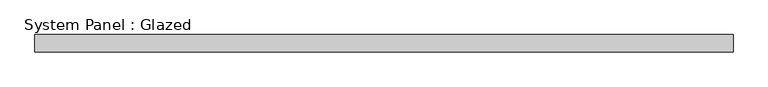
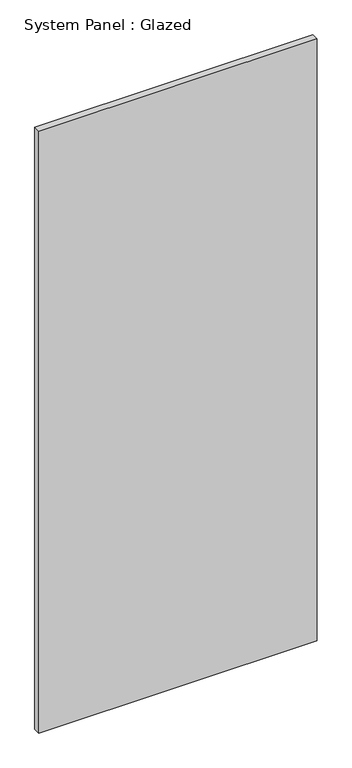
"""IFC4 building model written with IfcOpenShell, lengths in millimetres: plate geometry, System Panel : Glazed."""

from ifc_helpers import new_model, si_unit, origin, origin_with_axes, place, context, project, spatial, polyline, outline, extrude, source, transform, mapped, element, save


def system_panel_glazed_aafa14a7(model_context):
    return source(origin(), model_context, "Body", "SweptSolid", [
        extrude(outline(polyline([(508.3333332, -49.5), (-508.3333332, -49.5), (-508.3333332, -24.5), (508.3333332, -24.5), (508.3333332, -49.5)])), origin_with_axes(), (0.0, 0.0, 1.0), 2325.0),
    ])


if __name__ == "__main__":
    model = new_model("IFC4")
    model_context = context("Model", 3, world=origin())
    ifc_project = project(units=[si_unit("LENGTHUNIT", "METRE", prefix="MILLI")], contexts=[model_context])
    site = spatial("IfcSite", under=ifc_project)
    building = spatial("IfcBuilding", under=site)
    placement = place(None, origin())
    system_panel_glazed_shape = system_panel_glazed_aafa14a7(model_context)
    element("IfcPlate", 1, ObjectType="System Panel : Glazed", at=placement, inside=building, context=model_context, shape_type="MappedRepresentation", body=[
        mapped(system_panel_glazed_shape, transform((0.0, 0.0, 0.0), x_axis=(1.0, 0.0, 0.0), y_axis=(0.0, 1.0, 0.0), z_axis=(0.0, 0.0, 1.0))),
    ])
    save(model, "model.ifc")
